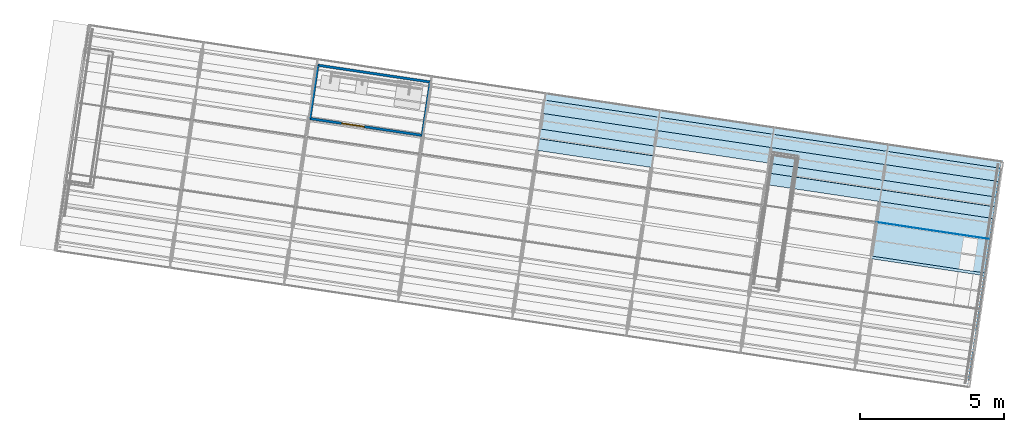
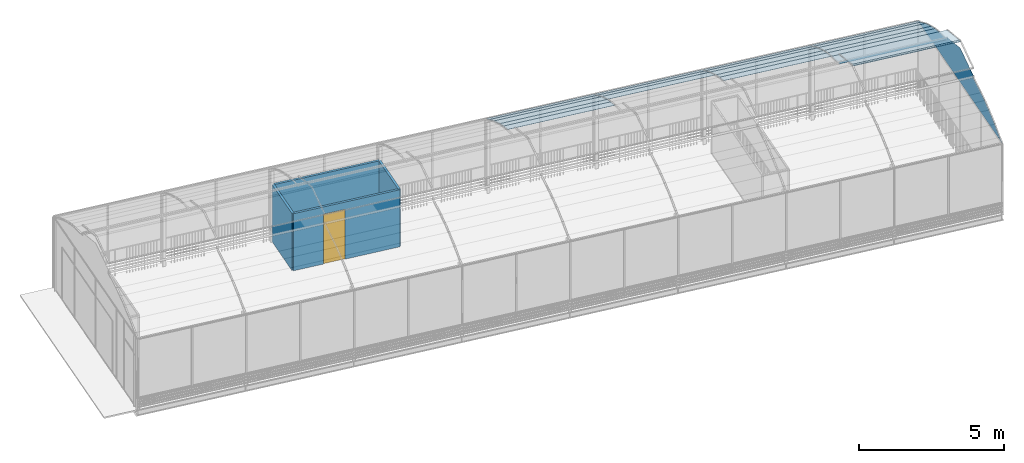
# One storey, part 27 of 34: 23 plates, 4 walls, 1 door, 1 opening, 1 element without a shape of its own.
"""IFC4 building model written with IfcOpenShell, lengths in metres."""

from ifc_helpers import new_model, si_unit, direction, frame, origin_with_axes, place, context, subcontext, project, spatial, polyline, outline, extrude, material, element, fill, aggregate, save


model = new_model("IFC4")

# Units and contexts
model_context = context("Model", 3, precision=1e-05, world=origin_with_axes(), true_north=direction((0.0, 1.0)))
body_context = subcontext(model_context, "Body", "Model", "MODEL_VIEW")
ifc_project = project(units=[si_unit("VOLUMEUNIT", "CUBIC_METRE"), si_unit("LENGTHUNIT", "METRE"), si_unit("AREAUNIT", "SQUARE_METRE")], contexts=[model_context])

# Site, building, storey
site_placement = place(None, origin_with_axes())
site = spatial("IfcSite", under=ifc_project, at=site_placement, Name="Lares · Rua das Mercês · artigo 4771")
building_placement = place(site_placement, frame((12.0, 10.2, 13.9), z_axis=(0.0, 0.0, 1.0), x_axis=(0.989015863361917, -0.147809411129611, 0.0)))
building = spatial("IfcBuilding", under=site, at=building_placement, Name="Casa Sobreposta")
storey_placement = place(building_placement, frame((0.0, 0.0, 3.24), z_axis=(0.0, 0.0, 1.0), x_axis=(1.0, 0.0, 0.0)))
storey = spatial("IfcBuildingStorey", under=building, at=storey_placement, Name="01 · Jardim de inverno", Elevation=17.14)

# Roof, plates
ifc_material_1 = material(Name="Vidro / Normalglas", Category="glass")
roof_placement = place(storey_placement, frame((0.0, 0.0, -3.24), z_axis=(0.0, 0.0, 1.0), x_axis=(1.0, 0.0, 0.0)))
roof = element("IfcRoof", 1, at=roof_placement, inside=storey, material=ifc_material_1, Name="Cobertura translúcida da estufa", PredefinedType="BARREL_ROOF")
plate_1_placement = place(roof_placement, frame((28.0, 0.0, 0.0), z_axis=(1.0, 0.0, 0.0), x_axis=(0.0, 1.0, 0.0)))
plate_1 = element("IfcPlate", 2, at=plate_1_placement, material=ifc_material_1, Name="Cobertura 8.9", PredefinedType="SHEET", context=body_context, shape_type="SweptSolid", body=[
    extrude(outline(polyline([(2.40274082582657, 7.96518238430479), (2.49770027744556, 7.96518238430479), (2.49770027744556, 7.95718238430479), (2.40274082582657, 7.95718238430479), (2.40274082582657, 7.96518238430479)])), origin_with_axes(), (0.0, 0.0, 1.0), 4.0),
])
plate_2_placement = place(roof_placement, frame((28.0, 0.0, 0.0), z_axis=(1.0, 0.0, 0.0), x_axis=(0.0, 1.0, 0.0)))
plate_2 = element("IfcPlate", 3, at=plate_2_placement, material=ifc_material_1, Name="Cobertura 8.10", PredefinedType="SHEET", context=body_context, shape_type="SweptSolid", body=[
    extrude(outline(polyline([(2.49770027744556, 7.96518238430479), (3.68002089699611, 7.62067689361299), (3.68002089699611, 7.61267689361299), (2.49770027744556, 7.95718238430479), (2.49770027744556, 7.96518238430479)])), origin_with_axes(), (0.0, 0.0, 1.0), 4.0),
])
plate_3_placement = place(roof_placement, frame((28.0, 0.0, 0.0), z_axis=(1.0, 0.0, 0.0), x_axis=(0.0, 1.0, 0.0)))
plate_3 = element("IfcPlate", 4, at=plate_3_placement, material=ifc_material_1, Name="Cobertura 8.11", PredefinedType="SHEET", context=body_context, shape_type="SweptSolid", body=[
    extrude(outline(polyline([(3.68002089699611, 7.30067689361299), (3.68573096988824, 7.21327919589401), (3.68573096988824, 7.20527919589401), (3.68002089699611, 7.29267689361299), (3.68002089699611, 7.30067689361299)])), origin_with_axes(), (0.0, 0.0, 1.0), 4.0),
])
plate_4_placement = place(roof_placement, frame((28.0, 0.0, 0.0), z_axis=(1.0, 0.0, 0.0), x_axis=(0.0, 1.0, 0.0)))
plate_4 = element("IfcPlate", 5, at=plate_4_placement, material=ifc_material_1, Name="Cobertura 8.12", PredefinedType="SHEET", context=body_context, shape_type="SweptSolid", body=[
    extrude(outline(polyline([(3.68573096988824, 7.21327919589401), (4.40690649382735, 7.05944154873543), (4.40690649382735, 7.05144154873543), (3.68573096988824, 7.20527919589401), (3.68573096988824, 7.21327919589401)])), origin_with_axes(), (0.0, 0.0, 1.0), 4.0),
])
plate_5_placement = place(roof_placement, frame((16.0, 0.0, 0.0), z_axis=(1.0, 0.0, 0.0), x_axis=(0.0, 1.0, 0.0)))
plate_5 = element("IfcPlate", 6, at=plate_5_placement, material=ifc_material_1, Name="Cobertura 5.13", PredefinedType="SHEET", context=body_context, shape_type="SweptSolid", body=[
    extrude(outline(polyline([(4.40690649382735, 7.05944154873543), (4.81540166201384, 6.93795392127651), (4.81540166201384, 6.92995392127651), (4.40690649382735, 7.05144154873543), (4.40690649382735, 7.05944154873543)])), origin_with_axes(), (0.0, 0.0, 1.0), 4.0),
])
plate_6_placement = place(roof_placement, frame((24.0, 0.0, 0.0), z_axis=(1.0, 0.0, 0.0), x_axis=(0.0, 1.0, 0.0)))
plate_6 = element("IfcPlate", 7, at=plate_6_placement, material=ifc_material_1, Name="Cobertura 7.13", PredefinedType="SHEET", context=body_context, shape_type="SweptSolid", body=[
    extrude(outline(polyline([(4.40690649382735, 7.05944154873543), (4.81540166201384, 6.93795392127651), (4.81540166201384, 6.92995392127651), (4.40690649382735, 7.05144154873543), (4.40690649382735, 7.05944154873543)])), origin_with_axes(), (0.0, 0.0, 1.0), 4.0),
])
plate_7_placement = place(roof_placement, frame((28.0, 0.0, 0.0), z_axis=(1.0, 0.0, 0.0), x_axis=(0.0, 1.0, 0.0)))
plate_7 = element("IfcPlate", 8, at=plate_7_placement, material=ifc_material_1, Name="Cobertura 8.13", PredefinedType="SHEET", context=body_context, shape_type="SweptSolid", body=[
    extrude(outline(polyline([(4.40690649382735, 7.05944154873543), (4.81540166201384, 6.93795392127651), (4.81540166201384, 6.92995392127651), (4.40690649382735, 7.05144154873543), (4.40690649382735, 7.05944154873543)])), origin_with_axes(), (0.0, 0.0, 1.0), 4.0),
])
plate_8_placement = place(roof_placement, frame((16.0, 0.0, 0.0), z_axis=(1.0, 0.0, 0.0), x_axis=(0.0, 1.0, 0.0)))
plate_8 = element("IfcPlate", 9, at=plate_8_placement, material=ifc_material_1, Name="Cobertura 5.14", PredefinedType="SHEET", context=body_context, shape_type="SweptSolid", body=[
    extrude(outline(polyline([(4.81540166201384, 6.93795392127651), (5.15650506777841, 6.8157371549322), (5.15650506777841, 6.8077371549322), (4.81540166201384, 6.92995392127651), (4.81540166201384, 6.93795392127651)])), origin_with_axes(), (0.0, 0.0, 1.0), 4.0),
])
plate_9_placement = place(roof_placement, frame((24.0, 0.0, 0.0), z_axis=(1.0, 0.0, 0.0), x_axis=(0.0, 1.0, 0.0)))
plate_9 = element("IfcPlate", 10, at=plate_9_placement, material=ifc_material_1, Name="Cobertura 7.14", PredefinedType="SHEET", context=body_context, shape_type="SweptSolid", body=[
    extrude(outline(polyline([(4.81540166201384, 6.93795392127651), (5.15650506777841, 6.8157371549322), (5.15650506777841, 6.8077371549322), (4.81540166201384, 6.92995392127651), (4.81540166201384, 6.93795392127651)])), origin_with_axes(), (0.0, 0.0, 1.0), 4.0),
])
plate_10_placement = place(roof_placement, frame((28.0, 0.0, 0.0), z_axis=(1.0, 0.0, 0.0), x_axis=(0.0, 1.0, 0.0)))
plate_10 = element("IfcPlate", 11, at=plate_10_placement, material=ifc_material_1, Name="Cobertura 8.14", PredefinedType="SHEET", context=body_context, shape_type="SweptSolid", body=[
    extrude(outline(polyline([(4.81540166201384, 6.93795392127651), (5.15650506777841, 6.8157371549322), (5.15650506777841, 6.8077371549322), (4.81540166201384, 6.92995392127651), (4.81540166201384, 6.93795392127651)])), origin_with_axes(), (0.0, 0.0, 1.0), 4.0),
])
plate_11_placement = place(roof_placement, frame((16.0, 0.0, 0.0), z_axis=(1.0, 0.0, 0.0), x_axis=(0.0, 1.0, 0.0)))
plate_11 = element("IfcPlate", 12, at=plate_11_placement, material=ifc_material_1, Name="Cobertura 5.15", PredefinedType="SHEET", context=body_context, shape_type="SweptSolid", body=[
    extrude(outline(polyline([(5.15650506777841, 6.8157371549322), (5.70303916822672, 6.57620268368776), (5.70303916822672, 6.56820268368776), (5.15650506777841, 6.8077371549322), (5.15650506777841, 6.8157371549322)])), origin_with_axes(), (0.0, 0.0, 1.0), 4.0),
])
plate_12_placement = place(roof_placement, frame((20.0, 0.0, 0.0), z_axis=(1.0, 0.0, 0.0), x_axis=(0.0, 1.0, 0.0)))
plate_12 = element("IfcPlate", 13, at=plate_12_placement, material=ifc_material_1, Name="Cobertura 6.15", PredefinedType="SHEET", context=body_context, shape_type="SweptSolid", body=[
    extrude(outline(polyline([(5.15650506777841, 6.8157371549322), (5.70303916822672, 6.57620268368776), (5.70303916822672, 6.56820268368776), (5.15650506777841, 6.8077371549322), (5.15650506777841, 6.8157371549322)])), origin_with_axes(), (0.0, 0.0, 1.0), 4.0),
])
plate_13_placement = place(roof_placement, frame((24.0, 0.0, 0.0), z_axis=(1.0, 0.0, 0.0), x_axis=(0.0, 1.0, 0.0)))
plate_13 = element("IfcPlate", 14, at=plate_13_placement, material=ifc_material_1, Name="Cobertura 7.15", PredefinedType="SHEET", context=body_context, shape_type="SweptSolid", body=[
    extrude(outline(polyline([(5.15650506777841, 6.8157371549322), (5.70303916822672, 6.57620268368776), (5.70303916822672, 6.56820268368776), (5.15650506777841, 6.8077371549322), (5.15650506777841, 6.8157371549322)])), origin_with_axes(), (0.0, 0.0, 1.0), 4.0),
])
plate_14_placement = place(roof_placement, frame((28.0, 0.0, 0.0), z_axis=(1.0, 0.0, 0.0), x_axis=(0.0, 1.0, 0.0)))
plate_14 = element("IfcPlate", 15, at=plate_14_placement, material=ifc_material_1, Name="Cobertura 8.15", PredefinedType="SHEET", context=body_context, shape_type="SweptSolid", body=[
    extrude(outline(polyline([(5.15650506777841, 6.8157371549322), (5.70303916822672, 6.57620268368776), (5.70303916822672, 6.56820268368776), (5.15650506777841, 6.8077371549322), (5.15650506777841, 6.8157371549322)])), origin_with_axes(), (0.0, 0.0, 1.0), 4.0),
])
plate_15_placement = place(roof_placement, frame((16.0, 0.0, 0.0), z_axis=(1.0, 0.0, 0.0), x_axis=(0.0, 1.0, 0.0)))
plate_15 = element("IfcPlate", 16, at=plate_15_placement, material=ifc_material_1, Name="Cobertura 5.16", PredefinedType="SHEET", context=body_context, shape_type="SweptSolid", body=[
    extrude(outline(polyline([(5.70303916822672, 6.57620268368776), (6.16760124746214, 6.3240293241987), (6.16760124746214, 6.3160293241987), (5.70303916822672, 6.56820268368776), (5.70303916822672, 6.57620268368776)])), origin_with_axes(), (0.0, 0.0, 1.0), 4.0),
])
plate_16_placement = place(roof_placement, frame((20.0, 0.0, 0.0), z_axis=(1.0, 0.0, 0.0), x_axis=(0.0, 1.0, 0.0)))
plate_16 = element("IfcPlate", 17, at=plate_16_placement, material=ifc_material_1, Name="Cobertura 6.16", PredefinedType="SHEET", context=body_context, shape_type="SweptSolid", body=[
    extrude(outline(polyline([(5.70303916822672, 6.57620268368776), (6.16760124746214, 6.3240293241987), (6.16760124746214, 6.3160293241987), (5.70303916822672, 6.56820268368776), (5.70303916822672, 6.57620268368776)])), origin_with_axes(), (0.0, 0.0, 1.0), 4.0),
])
plate_17_placement = place(roof_placement, frame((24.0, 0.0, 0.0), z_axis=(1.0, 0.0, 0.0), x_axis=(0.0, 1.0, 0.0)))
plate_17 = element("IfcPlate", 18, at=plate_17_placement, material=ifc_material_1, Name="Cobertura 7.16", PredefinedType="SHEET", context=body_context, shape_type="SweptSolid", body=[
    extrude(outline(polyline([(5.70303916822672, 6.57620268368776), (6.16760124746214, 6.3240293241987), (6.16760124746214, 6.3160293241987), (5.70303916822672, 6.56820268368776), (5.70303916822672, 6.57620268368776)])), origin_with_axes(), (0.0, 0.0, 1.0), 4.0),
])
plate_18_placement = place(roof_placement, frame((28.0, 0.0, 0.0), z_axis=(1.0, 0.0, 0.0), x_axis=(0.0, 1.0, 0.0)))
plate_18 = element("IfcPlate", 19, at=plate_18_placement, material=ifc_material_1, Name="Cobertura 8.16", PredefinedType="SHEET", context=body_context, shape_type="SweptSolid", body=[
    extrude(outline(polyline([(5.70303916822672, 6.57620268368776), (6.16760124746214, 6.3240293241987), (6.16760124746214, 6.3160293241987), (5.70303916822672, 6.56820268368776), (5.70303916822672, 6.57620268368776)])), origin_with_axes(), (0.0, 0.0, 1.0), 4.0),
])
plate_19_placement = place(roof_placement, frame((16.0, 0.0, 0.0), z_axis=(1.0, 0.0, 0.0), x_axis=(0.0, 1.0, 0.0)))
plate_19 = element("IfcPlate", 20, at=plate_19_placement, material=ifc_material_1, Name="Cobertura 5.17", PredefinedType="SHEET", context=body_context, shape_type="SweptSolid", body=[
    extrude(outline(polyline([(6.16760124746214, 6.3240293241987), (6.39999999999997, 6.23430000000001), (6.39999999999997, 6.22630000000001), (6.16760124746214, 6.3160293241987), (6.16760124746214, 6.3240293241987)])), origin_with_axes(), (0.0, 0.0, 1.0), 4.0),
])
plate_20_placement = place(roof_placement, frame((20.0, 0.0, 0.0), z_axis=(1.0, 0.0, 0.0), x_axis=(0.0, 1.0, 0.0)))
plate_20 = element("IfcPlate", 21, at=plate_20_placement, material=ifc_material_1, Name="Cobertura 6.17", PredefinedType="SHEET", context=body_context, shape_type="SweptSolid", body=[
    extrude(outline(polyline([(6.16760124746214, 6.3240293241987), (6.39999999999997, 6.23430000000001), (6.39999999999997, 6.22630000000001), (6.16760124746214, 6.3160293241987), (6.16760124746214, 6.3240293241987)])), origin_with_axes(), (0.0, 0.0, 1.0), 4.0),
])
plate_21_placement = place(roof_placement, frame((24.0, 0.0, 0.0), z_axis=(1.0, 0.0, 0.0), x_axis=(0.0, 1.0, 0.0)))
plate_21 = element("IfcPlate", 22, at=plate_21_placement, material=ifc_material_1, Name="Cobertura 7.17", PredefinedType="SHEET", context=body_context, shape_type="SweptSolid", body=[
    extrude(outline(polyline([(6.16760124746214, 6.3240293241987), (6.39999999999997, 6.23430000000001), (6.39999999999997, 6.22630000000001), (6.16760124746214, 6.3160293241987), (6.16760124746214, 6.3240293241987)])), origin_with_axes(), (0.0, 0.0, 1.0), 4.0),
])
plate_22_placement = place(roof_placement, frame((28.0, 0.0, 0.0), z_axis=(1.0, 0.0, 0.0), x_axis=(0.0, 1.0, 0.0)))
plate_22 = element("IfcPlate", 23, at=plate_22_placement, material=ifc_material_1, Name="Cobertura 8.17", PredefinedType="SHEET", context=body_context, shape_type="SweptSolid", body=[
    extrude(outline(polyline([(6.16760124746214, 6.3240293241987), (6.39999999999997, 6.23430000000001), (6.39999999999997, 6.22630000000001), (6.16760124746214, 6.3160293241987), (6.16760124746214, 6.3240293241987)])), origin_with_axes(), (0.0, 0.0, 1.0), 4.0),
])
plate_23_placement = place(roof_placement, frame((31.992, 0.0, 0.0), z_axis=(1.0, 0.0, 0.0), x_axis=(0.0, 1.0, 0.0)))
plate_23 = element("IfcPlate", 24, at=plate_23_placement, material=ifc_material_1, Name="Empena da estufa", context=body_context, shape_type="SweptSolid", body=[
    extrude(outline(polyline([(-1.5, 6.22), (-1.5, 6.23430000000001), (-1.26765509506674, 6.32392631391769), (-1.21743691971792, 6.35359791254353), (-1.16685614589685, 6.38286403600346), (-1.11591778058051, 6.41172178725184), (-1.06462686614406, 6.4401683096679), (-1.01298847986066, 6.46820078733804), (-0.961007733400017, 6.49581644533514), (-0.908689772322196, 6.52301254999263), (-0.856039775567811, 6.54978640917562), (-0.803062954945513, 6.57613537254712), (-0.749764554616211, 6.6020568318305), (-0.696149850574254, 6.62754822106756), (-0.642224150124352, 6.6526070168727), (-0.587992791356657, 6.67723073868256), (-0.533461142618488, 6.70141694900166), (-0.478634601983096, 6.72516325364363), (-0.423518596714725, 6.74846730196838), (-0.368118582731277, 6.77132678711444), (-0.312440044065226, 6.79373944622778), (-0.256488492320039, 6.81570306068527), (-0.200269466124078, 6.83721545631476), (-0.143788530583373, 6.85827450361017), (-0.0870512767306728, 6.87887811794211), (-0.0300633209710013, 6.89902425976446), (0.0271696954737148, 6.9187109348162), (0.0846421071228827, 6.93793619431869), (0.142348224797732, 6.95669813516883), (0.200282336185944, 6.97499490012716), (0.258438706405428, 6.99282467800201), (0.316811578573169, 7.01018570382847), (0.375395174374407, 7.02707625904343), (0.434183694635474, 7.04349467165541), (0.493171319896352, 7.05943931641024), (0.552352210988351, 7.07490861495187), (0.611720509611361, 7.08990103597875), (0.671270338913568, 7.1044150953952), (0.730995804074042, 7.11844935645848), (0.790890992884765, 7.13200242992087), (0.85094997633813, 7.14507297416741), (0.911166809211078, 7.15765969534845), (0.971535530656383, 7.16976134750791), (1.03205016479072, 7.1813767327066), (1.09270472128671, 7.19250470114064), (1.15349319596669, 7.20314415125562), (1.21440957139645, 7.21329402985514), (1.22042020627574, 7.30067689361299), (2.40274082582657, 7.64518238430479), (2.49770027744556, 7.64518238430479), (3.68002089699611, 7.30067689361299), (3.68573096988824, 7.21327919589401), (3.74664195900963, 7.20313026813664), (3.80742507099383, 7.19249185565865), (3.86807429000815, 7.18136501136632), (3.92858361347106, 7.16975083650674), (3.9889470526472, 7.15765048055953), (4.04915863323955, 7.14506514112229), (4.10921239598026, 7.13199606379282), (4.1691023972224, 7.11844454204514), (4.22882270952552, 7.10441191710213), (4.28836742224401, 7.08989957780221), (4.34773064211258, 7.07490896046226), (4.40690649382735, 7.05944154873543), (4.46588912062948, 7.04349887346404), (4.52467268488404, 7.02708251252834), (4.58325136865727, 7.01019409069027), (4.64161937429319, 6.99283527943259), (4.69977092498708, 6.97500779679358), (4.75770026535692, 6.95671340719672), (4.81540166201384, 6.93795392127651), (4.87286940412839, 6.91873119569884), (4.93009780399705, 6.89904713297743), (4.98708119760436, 6.87890368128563), (5.04381394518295, 6.85830283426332), (5.10029043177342, 6.83724663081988), (5.15650506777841, 6.8157371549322), (5.21245228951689, 6.79377653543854), (5.26812655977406, 6.77136694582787), (5.32352236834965, 6.74851060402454), (5.37863423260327, 6.72520977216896), (5.43345669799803, 6.70146675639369), (5.48798433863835, 6.67728390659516), (5.54221175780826, 6.65266361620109), (5.59613358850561, 6.62760832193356), (5.64974449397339, 6.60212050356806), (5.70303916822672, 6.57620268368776), (5.75601233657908, 6.54985742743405), (5.80865875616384, 6.52308734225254), (5.86097321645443, 6.49589507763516), (5.9129505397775, 6.46828332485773), (5.9645855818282, 6.44025481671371), (6.01587323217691, 6.41181232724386), (6.0668084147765, 6.38295867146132), (6.11738608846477, 6.35369670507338), (6.16760124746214, 6.3240293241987), (6.39999999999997, 6.23430000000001), (6.39999999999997, 6.22), (-1.5, 6.22)])), origin_with_axes(), (0.0, 0.0, 1.0), 0.008),
])
aggregate(roof, [plate_1, plate_2, plate_3, plate_4, plate_5, plate_6, plate_7, plate_8, plate_9, plate_10, plate_11, plate_12, plate_13, plate_14, plate_15, plate_16, plate_17, plate_18, plate_19, plate_20, plate_21, plate_22, plate_23])

# Walls
ifc_material_2 = material(Name="OSB", Category="wood")
wall_1_placement = place(storey_placement, origin_with_axes())
element("IfcWall", 25, at=wall_1_placement, inside=storey, material=ifc_material_2, Name="Banho superior · poente", context=body_context, shape_type="SweptSolid", body=[
    extrude(outline(polyline([(7.996, 6.203), (8.084, 6.203), (8.084, 4.333), (7.996, 4.333), (7.996, 6.203)])), origin_with_axes(), (0.0, 0.0, 1.0), 2.4),
])
wall_2_placement = place(storey_placement, origin_with_axes())
element("IfcWall", 26, at=wall_2_placement, inside=storey, material=ifc_material_2, Name="Banho superior · norte", context=body_context, shape_type="SweptSolid", body=[
    extrude(outline(polyline([(11.98, 6.247), (11.98, 6.159), (8.04, 6.159), (8.04, 6.247), (11.98, 6.247)])), origin_with_axes(), (0.0, 0.0, 1.0), 2.4),
])
wall_3_placement = place(storey_placement, origin_with_axes())
element("IfcWall", 27, at=wall_3_placement, inside=storey, material=ifc_material_2, Name="Banho superior · nascente", context=body_context, shape_type="SweptSolid", body=[
    extrude(outline(polyline([(12.024, 4.333), (11.936, 4.333), (11.936, 6.203), (12.024, 6.203), (12.024, 4.333)])), origin_with_axes(), (0.0, 0.0, 1.0), 2.4),
])

# Wall, opening, door
wall_4_placement = place(storey_placement, origin_with_axes())
wall_4 = element("IfcWall", 28, at=wall_4_placement, inside=storey, material=ifc_material_2, Name="Banho superior · sul", context=body_context, shape_type="SweptSolid", body=[
    extrude(outline(polyline([(11.98, 4.377), (11.98, 4.289), (8.04, 4.289), (8.04, 4.377), (11.98, 4.377)])), origin_with_axes(), (0.0, 0.0, 1.0), 2.4),
])
opening_placement = place(wall_4_placement, origin_with_axes())
opening = element("IfcOpeningElement", 29, at=opening_placement, cuts=wall_4, Name="Vão banho superior", PredefinedType="OPENING", context=body_context, shape_type="SweptSolid", body=[
    extrude(outline(polyline([(9.95, 4.1), (9.95, 4.55), (9.15, 4.55), (9.15, 4.1), (9.95, 4.1)])), origin_with_axes(), (0.0, 0.0, 1.0), 2.1),
])
door_placement = place(storey_placement, origin_with_axes())
door = element("IfcDoor", 30, at=door_placement, inside=storey, material=ifc_material_2, Name="Porta banho superior", OperationType="SINGLE_SWING_LEFT", OverallHeight=2.1, OverallWidth=0.799999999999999, PredefinedType="DOOR", context=body_context, shape_type="SweptSolid", body=[
    extrude(outline(polyline([(9.95, 4.3505), (9.95, 4.3155), (9.15, 4.3155), (9.15, 4.3505), (9.95, 4.3505)])), origin_with_axes(), (0.0, 0.0, 1.0), 2.1),
])
fill(opening, door)

save(model, "model.ifc")
